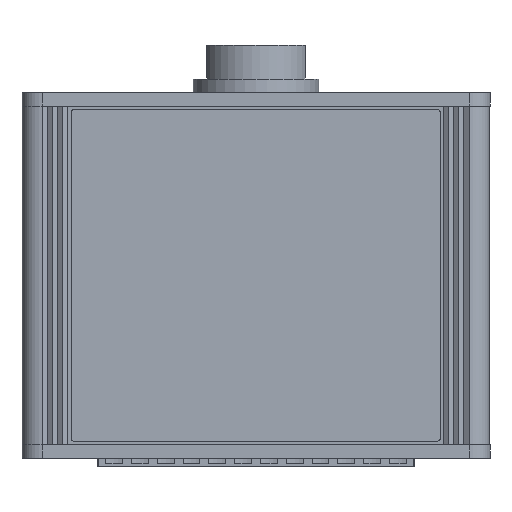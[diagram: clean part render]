
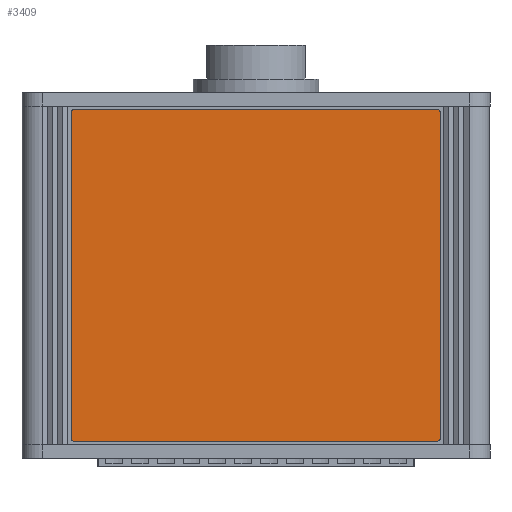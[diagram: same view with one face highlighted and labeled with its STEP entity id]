
A CAD part, front view. The second image highlights one B-rep face of the part: STEP entity #3409.
In plain terms, the highlighted planar face has unit normal (0, -1, 0).
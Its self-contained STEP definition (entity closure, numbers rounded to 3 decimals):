
#704 = ORIENTED_EDGE ( 'NONE', *, *, #47257, .T. ) ;
#2668 = LINE ( 'NONE', #49217, #61585 ) ;
#3265 = CIRCLE ( 'NONE', #45700, 0.5 ) ;
#3370 = AXIS2_PLACEMENT_3D ( 'NONE', #26956, #80851, #67605 ) ;
#3409 = ADVANCED_FACE ( 'NONE', ( #7506 ), #19571, .T. ) ;
#4177 = VERTEX_POINT ( 'NONE', #60719 ) ;
#6890 = ORIENTED_EDGE ( 'NONE', *, *, #15592, .T. ) ;
#7506 = FACE_OUTER_BOUND ( 'NONE', #84464, .T. ) ;
#11955 = DIRECTION ( 'NONE',  ( 0., 0., 1. ) ) ;
#12240 = CARTESIAN_POINT ( 'NONE',  ( 27.25, -11.5, 49. ) ) ;
#14124 = CARTESIAN_POINT ( 'NONE',  ( -27.25, -11.5, 49. ) ) ;
#14616 = CARTESIAN_POINT ( 'NONE',  ( 27.25, -11.5, 1. ) ) ;
#15011 = VERTEX_POINT ( 'NONE', #30401 ) ;
#15592 = EDGE_CURVE ( 'NONE', #25361, #51684, #77006, .T. ) ;
#15597 = EDGE_CURVE ( 'NONE', #24971, #86123, #2668, .T. ) ;
#16455 = CARTESIAN_POINT ( 'NONE',  ( -26.75, -11.5, 0.5 ) ) ;
#16897 = CARTESIAN_POINT ( 'NONE',  ( -26.75, -11.5, 49.5 ) ) ;
#17443 = AXIS2_PLACEMENT_3D ( 'NONE', #27500, #81414, #46964 ) ;
#19091 = ORIENTED_EDGE ( 'NONE', *, *, #32809, .F. ) ;
#19571 = PLANE ( 'NONE',  #17443 ) ;
#22005 = VECTOR ( 'NONE', #82180, 1000. ) ;
#22458 = LINE ( 'NONE', #74612, #78799 ) ;
#24850 = CARTESIAN_POINT ( 'NONE',  ( -26.75, -11.5, 1. ) ) ;
#24971 = VERTEX_POINT ( 'NONE', #48026 ) ;
#25328 = DIRECTION ( 'NONE',  ( 0., 0., 1. ) ) ;
#25361 = VERTEX_POINT ( 'NONE', #16455 ) ;
#26956 = CARTESIAN_POINT ( 'NONE',  ( 26.75, -11.5, 1. ) ) ;
#27500 = CARTESIAN_POINT ( 'NONE',  ( -26.75, -11.5, 1. ) ) ;
#29464 = CARTESIAN_POINT ( 'NONE',  ( 26.75, -11.5, 49. ) ) ;
#30401 = CARTESIAN_POINT ( 'NONE',  ( -27.25, -11.5, 1. ) ) ;
#31039 = AXIS2_PLACEMENT_3D ( 'NONE', #24850, #65062, #11955 ) ;
#31210 = EDGE_CURVE ( 'NONE', #4177, #86123, #38812, .T. ) ;
#32809 = EDGE_CURVE ( 'NONE', #24971, #65053, #3265, .T. ) ;
#36811 = DIRECTION ( 'NONE',  ( -1., 0., 0. ) ) ;
#38812 = CIRCLE ( 'NONE', #71263, 0.5 ) ;
#43126 = EDGE_CURVE ( 'NONE', #48205, #65053, #22458, .T. ) ;
#43826 = EDGE_CURVE ( 'NONE', #25361, #15011, #69137, .T. ) ;
#45700 = AXIS2_PLACEMENT_3D ( 'NONE', #29464, #56434, #83775 ) ;
#46070 = CARTESIAN_POINT ( 'NONE',  ( -26.75, -11.5, 49. ) ) ;
#46964 = DIRECTION ( 'NONE',  ( 0., 0., -1. ) ) ;
#47257 = EDGE_CURVE ( 'NONE', #51684, #48205, #69800, .T. ) ;
#48026 = CARTESIAN_POINT ( 'NONE',  ( 26.75, -11.5, 49.5 ) ) ;
#48205 = VERTEX_POINT ( 'NONE', #14616 ) ;
#48619 = LINE ( 'NONE', #14124, #22005 ) ;
#49217 = CARTESIAN_POINT ( 'NONE',  ( 26.75, -11.5, 49.5 ) ) ;
#51039 = ORIENTED_EDGE ( 'NONE', *, *, #43826, .F. ) ;
#51684 = VERTEX_POINT ( 'NONE', #75933 ) ;
#56434 = DIRECTION ( 'NONE',  ( 0., 1., 0. ) ) ;
#60669 = EDGE_CURVE ( 'NONE', #4177, #15011, #48619, .T. ) ;
#60719 = CARTESIAN_POINT ( 'NONE',  ( -27.25, -11.5, 49. ) ) ;
#61585 = VECTOR ( 'NONE', #36811, 1000. ) ;
#64217 = ORIENTED_EDGE ( 'NONE', *, *, #60669, .T. ) ;
#65043 = ORIENTED_EDGE ( 'NONE', *, *, #43126, .T. ) ;
#65053 = VERTEX_POINT ( 'NONE', #12240 ) ;
#65062 = DIRECTION ( 'NONE',  ( 0., 1., 0. ) ) ;
#67189 = ORIENTED_EDGE ( 'NONE', *, *, #31210, .F. ) ;
#67605 = DIRECTION ( 'NONE',  ( 0., 0., 1. ) ) ;
#69137 = CIRCLE ( 'NONE', #31039, 0.5 ) ;
#69800 = CIRCLE ( 'NONE', #3370, 0.5 ) ;
#71263 = AXIS2_PLACEMENT_3D ( 'NONE', #46070, #86261, #25328 ) ;
#74612 = CARTESIAN_POINT ( 'NONE',  ( 27.25, -11.5, 1. ) ) ;
#75035 = DIRECTION ( 'NONE',  ( 0., 0., 1. ) ) ;
#75933 = CARTESIAN_POINT ( 'NONE',  ( 26.75, -11.5, 0.5 ) ) ;
#76563 = DIRECTION ( 'NONE',  ( 1., 0., 0. ) ) ;
#77006 = LINE ( 'NONE', #84054, #78493 ) ;
#78493 = VECTOR ( 'NONE', #76563, 1000. ) ;
#78799 = VECTOR ( 'NONE', #75035, 1000. ) ;
#80851 = DIRECTION ( 'NONE',  ( 0., -1., 0. ) ) ;
#81414 = DIRECTION ( 'NONE',  ( 0., -1., 0. ) ) ;
#82180 = DIRECTION ( 'NONE',  ( 0., 0., -1. ) ) ;
#82274 = ORIENTED_EDGE ( 'NONE', *, *, #15597, .T. ) ;
#83775 = DIRECTION ( 'NONE',  ( 0., 0., 1. ) ) ;
#84054 = CARTESIAN_POINT ( 'NONE',  ( -26.75, -11.5, 0.5 ) ) ;
#84464 = EDGE_LOOP ( 'NONE', ( #67189, #64217, #51039, #6890, #704, #65043, #19091, #82274 ) ) ;
#86123 = VERTEX_POINT ( 'NONE', #16897 ) ;
#86261 = DIRECTION ( 'NONE',  ( 0., 1., 0. ) ) ;
